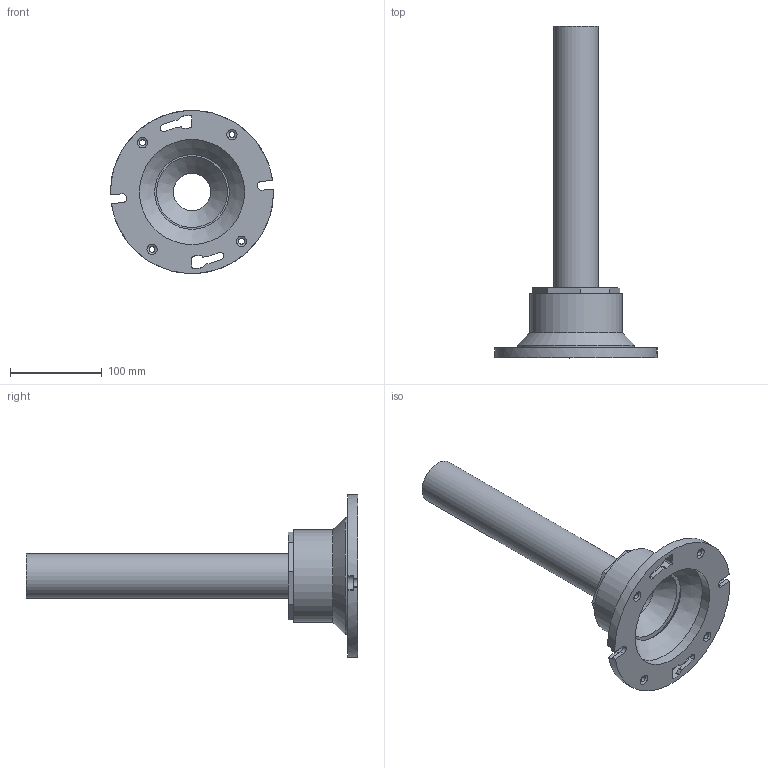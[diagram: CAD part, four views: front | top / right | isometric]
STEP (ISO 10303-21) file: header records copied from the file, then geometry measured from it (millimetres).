
FILE_DESCRIPTION(/* description */ (''),/* implementation_level */ '2;1');
FILE_NAME(/* name */ 'Post.stp',/* time_stamp */ '2024-10-17T18:31:05-04:00',/* author */ ('nicks'),/* organization */ (''),/* preprocessor_version */ 'ST-DEVELOPER v20',/* originating_system */ 'Autodesk Inventor 2024',/* authorisation */ '');
FILE_SCHEMA (('AUTOMOTIVE_DESIGN { 1 0 10303 214 3 1 1 }'));
Length unit declared in the file: inch
Products named in the file (4): Post; 1608T173_Drain, Waste and Vent ABS Pipe Fitting; ABS 1.5 X 12L; 2389K91_Aboveground PVC Fitting for Drain, Waste and Vent
Assembly tree (3 placements, depth 2):
  Post
    1608T173_Drain, Waste and Vent ABS Pipe Fitting
    ABS 1.5 X 12L
    2389K91_Aboveground PVC Fitting for Drain, Waste and Vent
Bounding box: 177.8 x 361.95 x 177.8 mm (x, y, z)
Volume: 563772.8 mm3; surface area: 203963.1 mm2
Topology: 3 solids, 3 shells, 241 faces, 569 edges, 331 vertices
Faces by surface type: cylinder 93, plane 67, torus 25, sphere 24, bspline 24, cone 8
Full cylindrical faces by diameter (mm): 6.35 x4, 40.894 x2, 48.26 x1, 48.514 x1, 56.642 x1, 77.724 x1, 88.9 x1, 89.281 x1, 100.457 x1, 114.681 x1, 127.381 x1
Entity records: 8736 total; most frequent: CARTESIAN_POINT 3009, DIRECTION 1253, ORIENTED_EDGE 1126, EDGE_CURVE 563, AXIS2_PLACEMENT_3D 513, VERTEX_POINT 331, CIRCLE 288, EDGE_LOOP 262
